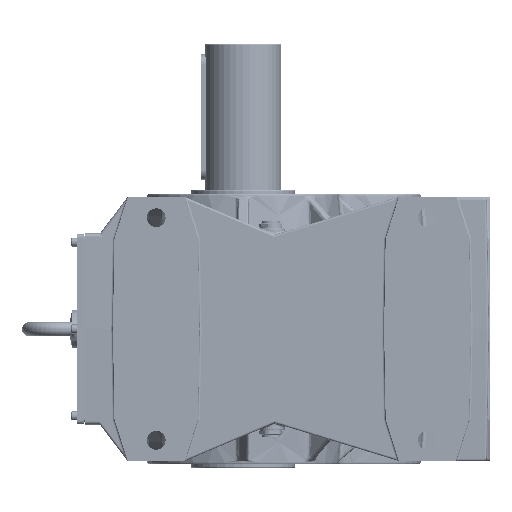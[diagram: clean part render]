
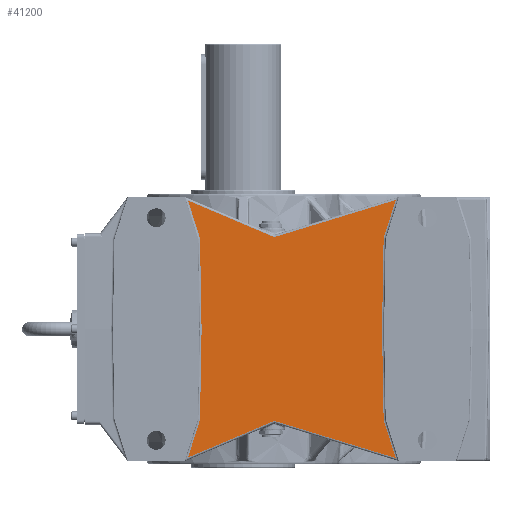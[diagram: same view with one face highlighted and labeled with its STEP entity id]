
A CAD part, left-side view. The second image highlights one B-rep face of the part: STEP entity #41200.
In plain terms, the highlighted planar face has unit normal (-1, 0, 0).
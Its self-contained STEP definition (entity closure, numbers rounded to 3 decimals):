
#32717=CARTESIAN_POINT('',(-225.0,79.172,-184.692));
#32718=VERTEX_POINT('',#32717);
#32726=CARTESIAN_POINT('',(-225.0,62.36,-131.6));
#32727=VERTEX_POINT('',#32726);
#32728=CARTESIAN_POINT('',(-225.0,79.172,-184.692));
#32729=DIRECTION('',(0.0,-0.302,0.953));
#32730=VECTOR('',#32729,55.69);
#32731=LINE('',#32728,#32730);
#32732=EDGE_CURVE('',#32718,#32727,#32731,.T.);
#38863=CARTESIAN_POINT('',(-225.,-42.78,-132.926));
#38864=VERTEX_POINT('',#38863);
#38872=CARTESIAN_POINT('',(-225.,-42.78,-132.926));
#38873=DIRECTION('',(0.,0.921,-0.391));
#38874=VECTOR('',#38873,132.484);
#38875=LINE('',#38872,#38874);
#38876=EDGE_CURVE('',#38864,#32718,#38875,.T.);
#38888=CARTESIAN_POINT('',(-225.,-46.878,-132.711));
#38889=VERTEX_POINT('',#38888);
#38897=CARTESIAN_POINT('',(-225.,-45.124,-138.449));
#38898=DIRECTION('',(-1.0,0.,0.));
#38899=DIRECTION('',(0.,0.052,0.999));
#38900=AXIS2_PLACEMENT_3D('',#38897,#38898,#38899);
#38901=CIRCLE('',#38900,6.);
#38902=EDGE_CURVE('',#38889,#38864,#38901,.T.);
#38922=CARTESIAN_POINT('',(-225.,-219.416,-185.461));
#38923=VERTEX_POINT('',#38922);
#38931=CARTESIAN_POINT('',(-225.,-219.416,-185.461));
#38932=DIRECTION('',(0.,0.956,0.292));
#38933=VECTOR('',#38932,180.421);
#38934=LINE('',#38931,#38933);
#38935=EDGE_CURVE('',#38923,#38889,#38934,.T.);
#40090=CARTESIAN_POINT('',(-225.,-202.36,-131.6));
#40091=VERTEX_POINT('',#40090);
#40099=CARTESIAN_POINT('',(-225.,-202.36,-131.6));
#40100=DIRECTION('',(0.0,-0.302,-0.953));
#40101=VECTOR('',#40100,56.498);
#40102=LINE('',#40099,#40101);
#40103=EDGE_CURVE('',#40091,#38923,#40102,.T.);
#40832=CARTESIAN_POINT('',(-225.0,79.172,184.692));
#40833=VERTEX_POINT('',#40832);
#40841=CARTESIAN_POINT('',(-225.,-42.78,132.926));
#40842=VERTEX_POINT('',#40841);
#40843=CARTESIAN_POINT('',(-225.0,79.172,184.692));
#40844=DIRECTION('',(0.,-0.921,-0.391));
#40845=VECTOR('',#40844,132.484);
#40846=LINE('',#40843,#40845);
#40847=EDGE_CURVE('',#40833,#40842,#40846,.T.);
#40904=CARTESIAN_POINT('',(-225.,-46.878,132.711));
#40905=VERTEX_POINT('',#40904);
#40923=CARTESIAN_POINT('',(-225.,-45.124,138.449));
#40924=DIRECTION('',(-1.0,0.,0.));
#40925=DIRECTION('',(0.,0.052,-0.999));
#40926=AXIS2_PLACEMENT_3D('',#40923,#40924,#40925);
#40927=CIRCLE('',#40926,6.);
#40928=EDGE_CURVE('',#40842,#40905,#40927,.T.);
#40938=CARTESIAN_POINT('',(-225.,-219.416,185.461));
#40939=VERTEX_POINT('',#40938);
#40956=CARTESIAN_POINT('',(-225.,-46.878,132.711));
#40957=DIRECTION('',(0.,-0.956,0.292));
#40958=VECTOR('',#40957,180.421);
#40959=LINE('',#40956,#40958);
#40960=EDGE_CURVE('',#40905,#40939,#40959,.T.);
#41105=CARTESIAN_POINT('',(-225.,-350.0,0.0));
#41106=DIRECTION('',(-1.0,0.0,0.0));
#41107=DIRECTION('',(0.0,0.0,1.0));
#41108=AXIS2_PLACEMENT_3D('',#41105,#41106,#41107);
#41109=PLANE('',#41108);
#41110=ORIENTED_EDGE('',*,*,#38935,.F.);
#41111=ORIENTED_EDGE('',*,*,#40103,.F.);
#41112=CARTESIAN_POINT('',(-225.,-201.988,-129.324));
#41113=VERTEX_POINT('',#41112);
#41114=CARTESIAN_POINT('',(-225.,-209.987,-129.185));
#41115=DIRECTION('',(-1.0,0.,0.));
#41116=DIRECTION('',(0.,0.987,-0.161));
#41117=AXIS2_PLACEMENT_3D('',#41114,#41115,#41116);
#41118=CIRCLE('',#41117,8.);
#41119=EDGE_CURVE('',#41113,#40091,#41118,.T.);
#41120=ORIENTED_EDGE('',*,*,#41119,.F.);
#41121=CARTESIAN_POINT('',(-225.,-199.73,0.));
#41122=VERTEX_POINT('',#41121);
#41123=CARTESIAN_POINT('',(-225.,-199.73,0.));
#41124=DIRECTION('',(0.0,-0.017,-1.));
#41125=VECTOR('',#41124,129.344);
#41126=LINE('',#41123,#41125);
#41127=EDGE_CURVE('',#41122,#41113,#41126,.T.);
#41128=ORIENTED_EDGE('',*,*,#41127,.F.);
#41129=CARTESIAN_POINT('',(-225.,-201.988,129.324));
#41130=VERTEX_POINT('',#41129);
#41131=CARTESIAN_POINT('',(-225.,-201.988,129.324));
#41132=DIRECTION('',(0.0,0.017,-1.));
#41133=VECTOR('',#41132,129.344);
#41134=LINE('',#41131,#41133);
#41135=EDGE_CURVE('',#41130,#41122,#41134,.T.);
#41136=ORIENTED_EDGE('',*,*,#41135,.F.);
#41137=CARTESIAN_POINT('',(-225.,-202.36,131.6));
#41138=VERTEX_POINT('',#41137);
#41139=CARTESIAN_POINT('',(-225.,-209.987,129.185));
#41140=DIRECTION('',(-1.0,0.,0.));
#41141=DIRECTION('',(0.,0.987,0.161));
#41142=AXIS2_PLACEMENT_3D('',#41139,#41140,#41141);
#41143=CIRCLE('',#41142,8.);
#41144=EDGE_CURVE('',#41138,#41130,#41143,.T.);
#41145=ORIENTED_EDGE('',*,*,#41144,.F.);
#41146=CARTESIAN_POINT('',(-225.,-219.416,185.461));
#41147=DIRECTION('',(0.0,0.302,-0.953));
#41148=VECTOR('',#41147,56.498);
#41149=LINE('',#41146,#41148);
#41150=EDGE_CURVE('',#40939,#41138,#41149,.T.);
#41151=ORIENTED_EDGE('',*,*,#41150,.F.);
#41152=ORIENTED_EDGE('',*,*,#40960,.F.);
#41153=ORIENTED_EDGE('',*,*,#40928,.F.);
#41154=ORIENTED_EDGE('',*,*,#40847,.F.);
#41155=CARTESIAN_POINT('',(-225.0,62.36,131.6));
#41156=VERTEX_POINT('',#41155);
#41157=CARTESIAN_POINT('',(-225.0,62.36,131.6));
#41158=DIRECTION('',(0.0,0.302,0.953));
#41159=VECTOR('',#41158,55.69);
#41160=LINE('',#41157,#41159);
#41161=EDGE_CURVE('',#41156,#40833,#41160,.T.);
#41162=ORIENTED_EDGE('',*,*,#41161,.F.);
#41163=CARTESIAN_POINT('',(-225.0,61.988,129.324));
#41164=VERTEX_POINT('',#41163);
#41165=CARTESIAN_POINT('',(-225.0,69.987,129.185));
#41166=DIRECTION('',(-1.0,0.,0.));
#41167=DIRECTION('',(0.,-0.987,0.161));
#41168=AXIS2_PLACEMENT_3D('',#41165,#41166,#41167);
#41169=CIRCLE('',#41168,8.0);
#41170=EDGE_CURVE('',#41164,#41156,#41169,.T.);
#41171=ORIENTED_EDGE('',*,*,#41170,.F.);
#41172=CARTESIAN_POINT('',(-225.0,59.73,0.));
#41173=VERTEX_POINT('',#41172);
#41174=CARTESIAN_POINT('',(-225.0,59.73,0.));
#41175=DIRECTION('',(0.0,0.017,1.));
#41176=VECTOR('',#41175,129.344);
#41177=LINE('',#41174,#41176);
#41178=EDGE_CURVE('',#41173,#41164,#41177,.T.);
#41179=ORIENTED_EDGE('',*,*,#41178,.F.);
#41180=CARTESIAN_POINT('',(-225.0,61.988,-129.324));
#41181=VERTEX_POINT('',#41180);
#41182=CARTESIAN_POINT('',(-225.0,61.988,-129.324));
#41183=DIRECTION('',(0.0,-0.017,1.));
#41184=VECTOR('',#41183,129.344);
#41185=LINE('',#41182,#41184);
#41186=EDGE_CURVE('',#41181,#41173,#41185,.T.);
#41187=ORIENTED_EDGE('',*,*,#41186,.F.);
#41188=CARTESIAN_POINT('',(-225.0,69.987,-129.185));
#41189=DIRECTION('',(-1.0,0.,0.));
#41190=DIRECTION('',(0.,-0.987,-0.161));
#41191=AXIS2_PLACEMENT_3D('',#41188,#41189,#41190);
#41192=CIRCLE('',#41191,8.0);
#41193=EDGE_CURVE('',#32727,#41181,#41192,.T.);
#41194=ORIENTED_EDGE('',*,*,#41193,.F.);
#41195=ORIENTED_EDGE('',*,*,#32732,.F.);
#41196=ORIENTED_EDGE('',*,*,#38876,.F.);
#41197=ORIENTED_EDGE('',*,*,#38902,.F.);
#41198=EDGE_LOOP('',(#41110,#41111,#41120,#41128,#41136,#41145,#41151,#41152,#41153,#41154,#41162,#41171,#41179,#41187,#41194,#41195,#41196,#41197));
#41199=FACE_OUTER_BOUND('',#41198,.T.);
#41200=ADVANCED_FACE('',(#41199),#41109,.T.);
